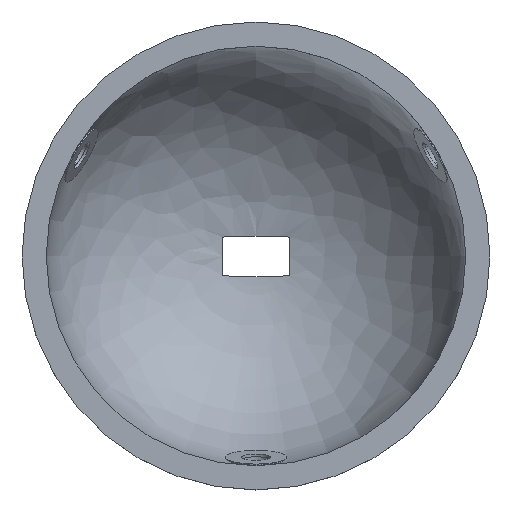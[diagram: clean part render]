
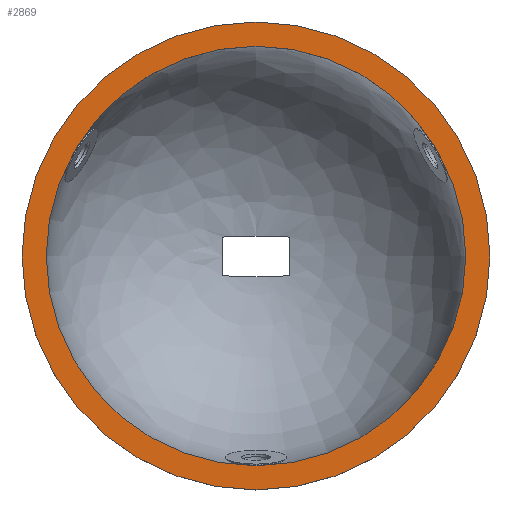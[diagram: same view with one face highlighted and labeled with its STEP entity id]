
A CAD part, top view. The second image highlights one B-rep face of the part: STEP entity #2869.
In plain terms, the highlighted planar face has unit normal (0, 0, 1).
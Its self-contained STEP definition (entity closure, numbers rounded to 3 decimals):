
#587 = CYLINDRICAL_SURFACE('',#588,26.);
#588 = AXIS2_PLACEMENT_3D('',#589,#590,#591);
#589 = CARTESIAN_POINT('',(0.,0.,-4.));
#590 = DIRECTION('',(0.,0.,1.));
#591 = DIRECTION('',(1.,0.,-0.));
#2177 = VERTEX_POINT('',#2178);
#2178 = CARTESIAN_POINT('',(26.,0.,0.));
#2199 = EDGE_CURVE('',#2177,#2177,#2200,.T.);
#2200 = SURFACE_CURVE('',#2201,(#2206,#2213),.PCURVE_S1.);
#2201 = CIRCLE('',#2202,26.);
#2202 = AXIS2_PLACEMENT_3D('',#2203,#2204,#2205);
#2203 = CARTESIAN_POINT('',(0.,0.,0.));
#2204 = DIRECTION('',(0.,0.,1.));
#2205 = DIRECTION('',(1.,0.,-0.));
#2206 = PCURVE('',#587,#2207);
#2207 = DEFINITIONAL_REPRESENTATION('',(#2208),#2212);
#2208 = LINE('',#2209,#2210);
#2209 = CARTESIAN_POINT('',(0.,4.));
#2210 = VECTOR('',#2211,1.);
#2211 = DIRECTION('',(1.,0.));
#2212 = ( GEOMETRIC_REPRESENTATION_CONTEXT(2) 
PARAMETRIC_REPRESENTATION_CONTEXT() REPRESENTATION_CONTEXT('2D SPACE',''
  ) );
#2213 = PCURVE('',#2214,#2219);
#2214 = PLANE('',#2215);
#2215 = AXIS2_PLACEMENT_3D('',#2216,#2217,#2218);
#2216 = CARTESIAN_POINT('',(0.,0.,0.));
#2217 = DIRECTION('',(0.,0.,1.));
#2218 = DIRECTION('',(1.,0.,-0.));
#2219 = DEFINITIONAL_REPRESENTATION('',(#2220),#2224);
#2220 = CIRCLE('',#2221,26.);
#2221 = AXIS2_PLACEMENT_2D('',#2222,#2223);
#2222 = CARTESIAN_POINT('',(0.,0.));
#2223 = DIRECTION('',(1.,-0.));
#2224 = ( GEOMETRIC_REPRESENTATION_CONTEXT(2) 
PARAMETRIC_REPRESENTATION_CONTEXT() REPRESENTATION_CONTEXT('2D SPACE',''
  ) );
#2869 = ADVANCED_FACE('',(#2870,#2873),#2214,.T.);
#2870 = FACE_BOUND('',#2871,.F.);
#2871 = EDGE_LOOP('',(#2872));
#2872 = ORIENTED_EDGE('',*,*,#2199,.T.);
#2873 = FACE_BOUND('',#2874,.F.);
#2874 = EDGE_LOOP('',(#2875));
#2875 = ORIENTED_EDGE('',*,*,#2876,.F.);
#2876 = EDGE_CURVE('',#2877,#2877,#2879,.T.);
#2877 = VERTEX_POINT('',#2878);
#2878 = CARTESIAN_POINT('',(29.,0.,0.));
#2879 = SURFACE_CURVE('',#2880,(#2885,#2892),.PCURVE_S1.);
#2880 = CIRCLE('',#2881,29.);
#2881 = AXIS2_PLACEMENT_3D('',#2882,#2883,#2884);
#2882 = CARTESIAN_POINT('',(0.,0.,0.));
#2883 = DIRECTION('',(0.,0.,1.));
#2884 = DIRECTION('',(1.,0.,-0.));
#2885 = PCURVE('',#2214,#2886);
#2886 = DEFINITIONAL_REPRESENTATION('',(#2887),#2891);
#2887 = CIRCLE('',#2888,29.);
#2888 = AXIS2_PLACEMENT_2D('',#2889,#2890);
#2889 = CARTESIAN_POINT('',(0.,0.));
#2890 = DIRECTION('',(1.,-0.));
#2891 = ( GEOMETRIC_REPRESENTATION_CONTEXT(2) 
PARAMETRIC_REPRESENTATION_CONTEXT() REPRESENTATION_CONTEXT('2D SPACE',''
  ) );
#2892 = PCURVE('',#2893,#2898);
#2893 = CYLINDRICAL_SURFACE('',#2894,29.);
#2894 = AXIS2_PLACEMENT_3D('',#2895,#2896,#2897);
#2895 = CARTESIAN_POINT('',(0.,0.,0.));
#2896 = DIRECTION('',(-0.,-0.,-1.));
#2897 = DIRECTION('',(1.,0.,0.));
#2898 = DEFINITIONAL_REPRESENTATION('',(#2899),#2903);
#2899 = LINE('',#2900,#2901);
#2900 = CARTESIAN_POINT('',(-0.,0.));
#2901 = VECTOR('',#2902,1.);
#2902 = DIRECTION('',(-1.,0.));
#2903 = ( GEOMETRIC_REPRESENTATION_CONTEXT(2) 
PARAMETRIC_REPRESENTATION_CONTEXT() REPRESENTATION_CONTEXT('2D SPACE',''
  ) );
